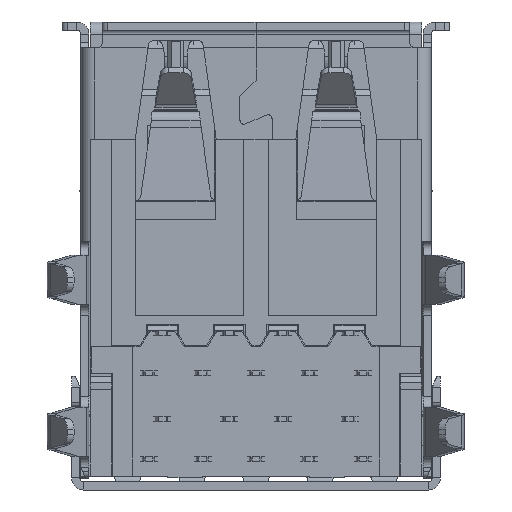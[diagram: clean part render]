
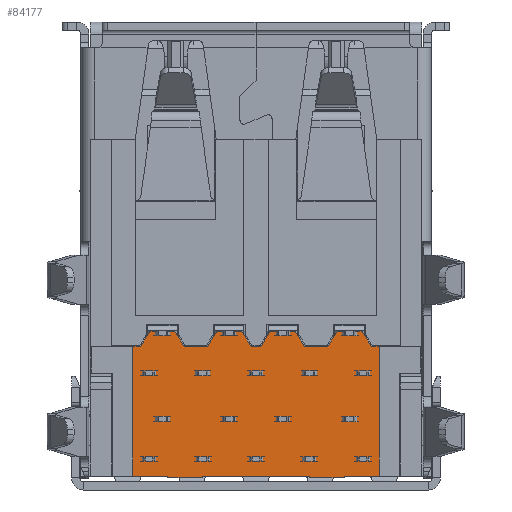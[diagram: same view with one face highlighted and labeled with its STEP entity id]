
A CAD part, front view. The second image highlights one B-rep face of the part: STEP entity #84177.
In plain terms, the highlighted planar face has unit normal (0, -1, 0).
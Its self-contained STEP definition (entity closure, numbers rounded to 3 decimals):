
#83975 = EDGE_CURVE('',#83976,#83978,#83980,.T.);
#83976 = VERTEX_POINT('',#83977);
#83977 = CARTESIAN_POINT('',(-2.705,-6.75,-2.));
#83978 = VERTEX_POINT('',#83979);
#83979 = CARTESIAN_POINT('',(-2.705,-6.75,2.));
#83980 = LINE('',#83981,#83982);
#83981 = CARTESIAN_POINT('',(-2.705,-6.75,-2.));
#83982 = VECTOR('',#83983,1.);
#83983 = DIRECTION('',(0.,0.,1.));
#84016 = VERTEX_POINT('',#84017);
#84017 = CARTESIAN_POINT('',(-2.705,-6.75,-4.615));
#84023 = EDGE_CURVE('',#84016,#84024,#84026,.T.);
#84024 = VERTEX_POINT('',#84025);
#84025 = CARTESIAN_POINT('',(-2.705,-6.75,-3.3));
#84026 = LINE('',#84027,#84028);
#84027 = CARTESIAN_POINT('',(-2.705,-6.75,-4.615));
#84028 = VECTOR('',#84029,1.);
#84029 = DIRECTION('',(0.,0.,1.));
#84120 = VERTEX_POINT('',#84121);
#84121 = CARTESIAN_POINT('',(-2.705,-6.75,3.3));
#84127 = EDGE_CURVE('',#84120,#84128,#84130,.T.);
#84128 = VERTEX_POINT('',#84129);
#84129 = CARTESIAN_POINT('',(-2.705,-6.75,4.615));
#84130 = LINE('',#84131,#84132);
#84131 = CARTESIAN_POINT('',(-2.705,-6.75,3.3));
#84132 = VECTOR('',#84133,1.);
#84133 = DIRECTION('',(0.,0.,1.));
#84159 = VERTEX_POINT('',#84160);
#84160 = CARTESIAN_POINT('',(-2.765,-6.75,-2.));
#84166 = EDGE_CURVE('',#83976,#84159,#84167,.T.);
#84167 = LINE('',#84168,#84169);
#84168 = CARTESIAN_POINT('',(-2.705,-6.75,-2.));
#84169 = VECTOR('',#84170,1.);
#84170 = DIRECTION('',(-1.,0.,0.));
#84177 = ADVANCED_FACE('',(#84178),#84370,.F.);
#84178 = FACE_BOUND('',#84179,.T.);
#84179 = EDGE_LOOP('',(#84180,#84181,#84189,#84197,#84203,#84204,#84205,
    #84213,#84219,#84220,#84228,#84236,#84244,#84252,#84260,#84268,
    #84276,#84284,#84292,#84300,#84308,#84316,#84324,#84332,#84340,
    #84348,#84356,#84364));
#84180 = ORIENTED_EDGE('',*,*,#84127,.F.);
#84181 = ORIENTED_EDGE('',*,*,#84182,.T.);
#84182 = EDGE_CURVE('',#84120,#84183,#84185,.T.);
#84183 = VERTEX_POINT('',#84184);
#84184 = CARTESIAN_POINT('',(-2.765,-6.75,3.3));
#84185 = LINE('',#84186,#84187);
#84186 = CARTESIAN_POINT('',(-2.705,-6.75,3.3));
#84187 = VECTOR('',#84188,1.);
#84188 = DIRECTION('',(-1.,0.,0.));
#84189 = ORIENTED_EDGE('',*,*,#84190,.T.);
#84190 = EDGE_CURVE('',#84183,#84191,#84193,.T.);
#84191 = VERTEX_POINT('',#84192);
#84192 = CARTESIAN_POINT('',(-2.765,-6.75,2.));
#84193 = LINE('',#84194,#84195);
#84194 = CARTESIAN_POINT('',(-2.765,-6.75,3.3));
#84195 = VECTOR('',#84196,1.);
#84196 = DIRECTION('',(0.,0.,-1.));
#84197 = ORIENTED_EDGE('',*,*,#84198,.T.);
#84198 = EDGE_CURVE('',#84191,#83978,#84199,.T.);
#84199 = LINE('',#84200,#84201);
#84200 = CARTESIAN_POINT('',(-2.765,-6.75,2.));
#84201 = VECTOR('',#84202,1.);
#84202 = DIRECTION('',(1.,0.,0.));
#84203 = ORIENTED_EDGE('',*,*,#83975,.F.);
#84204 = ORIENTED_EDGE('',*,*,#84166,.T.);
#84205 = ORIENTED_EDGE('',*,*,#84206,.T.);
#84206 = EDGE_CURVE('',#84159,#84207,#84209,.T.);
#84207 = VERTEX_POINT('',#84208);
#84208 = CARTESIAN_POINT('',(-2.765,-6.75,-3.3));
#84209 = LINE('',#84210,#84211);
#84210 = CARTESIAN_POINT('',(-2.765,-6.75,-2.));
#84211 = VECTOR('',#84212,1.);
#84212 = DIRECTION('',(0.,0.,-1.));
#84213 = ORIENTED_EDGE('',*,*,#84214,.T.);
#84214 = EDGE_CURVE('',#84207,#84024,#84215,.T.);
#84215 = LINE('',#84216,#84217);
#84216 = CARTESIAN_POINT('',(-2.765,-6.75,-3.3));
#84217 = VECTOR('',#84218,1.);
#84218 = DIRECTION('',(1.,0.,0.));
#84219 = ORIENTED_EDGE('',*,*,#84023,.F.);
#84220 = ORIENTED_EDGE('',*,*,#84221,.F.);
#84221 = EDGE_CURVE('',#84222,#84016,#84224,.T.);
#84222 = VERTEX_POINT('',#84223);
#84223 = CARTESIAN_POINT('',(2.145,-6.75,-4.615));
#84224 = LINE('',#84225,#84226);
#84225 = CARTESIAN_POINT('',(2.145,-6.75,-4.615));
#84226 = VECTOR('',#84227,1.);
#84227 = DIRECTION('',(-1.,0.,0.));
#84228 = ORIENTED_EDGE('',*,*,#84229,.F.);
#84229 = EDGE_CURVE('',#84230,#84222,#84232,.T.);
#84230 = VERTEX_POINT('',#84231);
#84231 = CARTESIAN_POINT('',(2.145,-6.75,-4.316));
#84232 = LINE('',#84233,#84234);
#84233 = CARTESIAN_POINT('',(2.145,-6.75,-4.316));
#84234 = VECTOR('',#84235,1.);
#84235 = DIRECTION('',(0.,0.,-1.));
#84236 = ORIENTED_EDGE('',*,*,#84237,.F.);
#84237 = EDGE_CURVE('',#84238,#84230,#84240,.T.);
#84238 = VERTEX_POINT('',#84239);
#84239 = CARTESIAN_POINT('',(2.705,-6.75,-3.966));
#84240 = LINE('',#84241,#84242);
#84241 = CARTESIAN_POINT('',(2.705,-6.75,-3.966));
#84242 = VECTOR('',#84243,1.);
#84243 = DIRECTION('',(-0.848,0.,-0.53));
#84244 = ORIENTED_EDGE('',*,*,#84245,.F.);
#84245 = EDGE_CURVE('',#84246,#84238,#84248,.T.);
#84246 = VERTEX_POINT('',#84247);
#84247 = CARTESIAN_POINT('',(2.705,-6.75,-3.034));
#84248 = LINE('',#84249,#84250);
#84249 = CARTESIAN_POINT('',(2.705,-6.75,-3.034));
#84250 = VECTOR('',#84251,1.);
#84251 = DIRECTION('',(0.,0.,-1.));
#84252 = ORIENTED_EDGE('',*,*,#84253,.F.);
#84253 = EDGE_CURVE('',#84254,#84246,#84256,.T.);
#84254 = VERTEX_POINT('',#84255);
#84255 = CARTESIAN_POINT('',(2.145,-6.75,-2.684));
#84256 = LINE('',#84257,#84258);
#84257 = CARTESIAN_POINT('',(2.145,-6.75,-2.684));
#84258 = VECTOR('',#84259,1.);
#84259 = DIRECTION('',(0.848,0.,-0.53));
#84260 = ORIENTED_EDGE('',*,*,#84261,.F.);
#84261 = EDGE_CURVE('',#84262,#84254,#84264,.T.);
#84262 = VERTEX_POINT('',#84263);
#84263 = CARTESIAN_POINT('',(2.145,-6.75,-1.816));
#84264 = LINE('',#84265,#84266);
#84265 = CARTESIAN_POINT('',(2.145,-6.75,-1.816));
#84266 = VECTOR('',#84267,1.);
#84267 = DIRECTION('',(0.,0.,-1.));
#84268 = ORIENTED_EDGE('',*,*,#84269,.F.);
#84269 = EDGE_CURVE('',#84270,#84262,#84272,.T.);
#84270 = VERTEX_POINT('',#84271);
#84271 = CARTESIAN_POINT('',(2.705,-6.75,-1.466));
#84272 = LINE('',#84273,#84274);
#84273 = CARTESIAN_POINT('',(2.705,-6.75,-1.466));
#84274 = VECTOR('',#84275,1.);
#84275 = DIRECTION('',(-0.848,0.,-0.53));
#84276 = ORIENTED_EDGE('',*,*,#84277,.F.);
#84277 = EDGE_CURVE('',#84278,#84270,#84280,.T.);
#84278 = VERTEX_POINT('',#84279);
#84279 = CARTESIAN_POINT('',(2.705,-6.75,-0.534));
#84280 = LINE('',#84281,#84282);
#84281 = CARTESIAN_POINT('',(2.705,-6.75,-0.534));
#84282 = VECTOR('',#84283,1.);
#84283 = DIRECTION('',(0.,0.,-1.));
#84284 = ORIENTED_EDGE('',*,*,#84285,.F.);
#84285 = EDGE_CURVE('',#84286,#84278,#84288,.T.);
#84286 = VERTEX_POINT('',#84287);
#84287 = CARTESIAN_POINT('',(2.145,-6.75,-0.184));
#84288 = LINE('',#84289,#84290);
#84289 = CARTESIAN_POINT('',(2.145,-6.75,-0.184));
#84290 = VECTOR('',#84291,1.);
#84291 = DIRECTION('',(0.848,0.,-0.53));
#84292 = ORIENTED_EDGE('',*,*,#84293,.F.);
#84293 = EDGE_CURVE('',#84294,#84286,#84296,.T.);
#84294 = VERTEX_POINT('',#84295);
#84295 = CARTESIAN_POINT('',(2.145,-6.75,0.184));
#84296 = LINE('',#84297,#84298);
#84297 = CARTESIAN_POINT('',(2.145,-6.75,0.184));
#84298 = VECTOR('',#84299,1.);
#84299 = DIRECTION('',(0.,0.,-1.));
#84300 = ORIENTED_EDGE('',*,*,#84301,.F.);
#84301 = EDGE_CURVE('',#84302,#84294,#84304,.T.);
#84302 = VERTEX_POINT('',#84303);
#84303 = CARTESIAN_POINT('',(2.705,-6.75,0.534));
#84304 = LINE('',#84305,#84306);
#84305 = CARTESIAN_POINT('',(2.705,-6.75,0.534));
#84306 = VECTOR('',#84307,1.);
#84307 = DIRECTION('',(-0.848,0.,-0.53));
#84308 = ORIENTED_EDGE('',*,*,#84309,.F.);
#84309 = EDGE_CURVE('',#84310,#84302,#84312,.T.);
#84310 = VERTEX_POINT('',#84311);
#84311 = CARTESIAN_POINT('',(2.705,-6.75,1.466));
#84312 = LINE('',#84313,#84314);
#84313 = CARTESIAN_POINT('',(2.705,-6.75,1.466));
#84314 = VECTOR('',#84315,1.);
#84315 = DIRECTION('',(0.,0.,-1.));
#84316 = ORIENTED_EDGE('',*,*,#84317,.F.);
#84317 = EDGE_CURVE('',#84318,#84310,#84320,.T.);
#84318 = VERTEX_POINT('',#84319);
#84319 = CARTESIAN_POINT('',(2.145,-6.75,1.816));
#84320 = LINE('',#84321,#84322);
#84321 = CARTESIAN_POINT('',(2.145,-6.75,1.816));
#84322 = VECTOR('',#84323,1.);
#84323 = DIRECTION('',(0.848,0.,-0.53));
#84324 = ORIENTED_EDGE('',*,*,#84325,.F.);
#84325 = EDGE_CURVE('',#84326,#84318,#84328,.T.);
#84326 = VERTEX_POINT('',#84327);
#84327 = CARTESIAN_POINT('',(2.145,-6.75,2.684));
#84328 = LINE('',#84329,#84330);
#84329 = CARTESIAN_POINT('',(2.145,-6.75,2.684));
#84330 = VECTOR('',#84331,1.);
#84331 = DIRECTION('',(0.,0.,-1.));
#84332 = ORIENTED_EDGE('',*,*,#84333,.F.);
#84333 = EDGE_CURVE('',#84334,#84326,#84336,.T.);
#84334 = VERTEX_POINT('',#84335);
#84335 = CARTESIAN_POINT('',(2.705,-6.75,3.034));
#84336 = LINE('',#84337,#84338);
#84337 = CARTESIAN_POINT('',(2.705,-6.75,3.034));
#84338 = VECTOR('',#84339,1.);
#84339 = DIRECTION('',(-0.848,0.,-0.53));
#84340 = ORIENTED_EDGE('',*,*,#84341,.F.);
#84341 = EDGE_CURVE('',#84342,#84334,#84344,.T.);
#84342 = VERTEX_POINT('',#84343);
#84343 = CARTESIAN_POINT('',(2.705,-6.75,3.966));
#84344 = LINE('',#84345,#84346);
#84345 = CARTESIAN_POINT('',(2.705,-6.75,3.966));
#84346 = VECTOR('',#84347,1.);
#84347 = DIRECTION('',(0.,0.,-1.));
#84348 = ORIENTED_EDGE('',*,*,#84349,.F.);
#84349 = EDGE_CURVE('',#84350,#84342,#84352,.T.);
#84350 = VERTEX_POINT('',#84351);
#84351 = CARTESIAN_POINT('',(2.145,-6.75,4.316));
#84352 = LINE('',#84353,#84354);
#84353 = CARTESIAN_POINT('',(2.145,-6.75,4.316));
#84354 = VECTOR('',#84355,1.);
#84355 = DIRECTION('',(0.848,0.,-0.53));
#84356 = ORIENTED_EDGE('',*,*,#84357,.F.);
#84357 = EDGE_CURVE('',#84358,#84350,#84360,.T.);
#84358 = VERTEX_POINT('',#84359);
#84359 = CARTESIAN_POINT('',(2.145,-6.75,4.615));
#84360 = LINE('',#84361,#84362);
#84361 = CARTESIAN_POINT('',(2.145,-6.75,4.615));
#84362 = VECTOR('',#84363,1.);
#84363 = DIRECTION('',(0.,0.,-1.));
#84364 = ORIENTED_EDGE('',*,*,#84365,.F.);
#84365 = EDGE_CURVE('',#84128,#84358,#84366,.T.);
#84366 = LINE('',#84367,#84368);
#84367 = CARTESIAN_POINT('',(-2.705,-6.75,4.615));
#84368 = VECTOR('',#84369,1.);
#84369 = DIRECTION('',(1.,0.,0.));
#84370 = PLANE('',#84371);
#84371 = AXIS2_PLACEMENT_3D('',#84372,#84373,#84374);
#84372 = CARTESIAN_POINT('',(2.705,-6.75,-4.615));
#84373 = DIRECTION('',(-0.,1.,0.));
#84374 = DIRECTION('',(1.,0.,0.));
